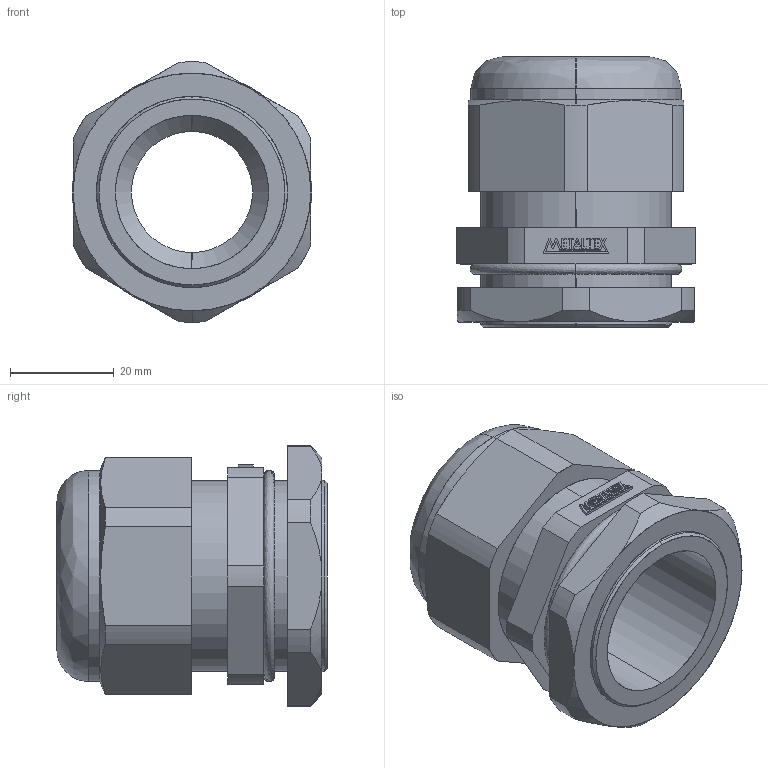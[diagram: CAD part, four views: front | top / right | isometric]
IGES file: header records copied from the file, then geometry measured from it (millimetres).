
Start section: SolidWorks IGES file using analytic representation for surfaces
Global section: file name: D:\X - Arquivos\PROEX\Empresas\P11 - METALTEX\01 - Produtos\IGES\Terceira remessa\Etapa 2\CH-PG29.IGS; native system: SolidWorks 2012; preprocessor: SolidWorks 2012; author: Usuario; date: 180207.123552; units: millimetre
Bounding box: 46.28 x 52.2 x 50.3 mm (x, y, z)
Surface area: 15578.7 mm2 (no closed solid volume)
Topology: 0 solids, 0 shells, 174 faces, 1591 edges, 1591 vertices
Faces by surface type: bspline 125, revolution 49
